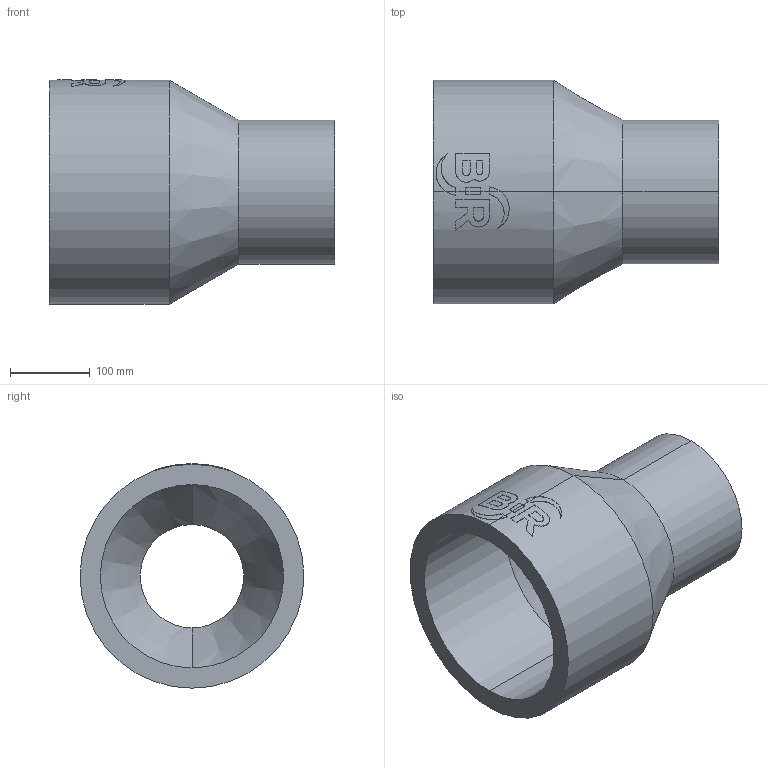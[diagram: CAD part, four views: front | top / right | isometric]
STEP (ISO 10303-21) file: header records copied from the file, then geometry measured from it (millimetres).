
FILE_DESCRIPTION (( 'STEP AP214' ), '1' );
FILE_NAME ('2323221815.STEP', '2018-07-20T09:13:49', ( '' ), ( '' ), 'SwSTEP 2.0', 'SolidWorks 2017', '' );
FILE_SCHEMA (( 'AUTOMOTIVE_DESIGN' ));
Length unit declared in the file: millimetre
Products named in the file (1): 2323221815
Bounding box: 357 x 280 x 280.46 mm (x, y, z)
Volume: 6140477.2 mm3; surface area: 516421.4 mm2
Topology: 1 solids, 1 shells, 63 faces, 160 edges, 104 vertices
Faces by surface type: cylinder 31, plane 28, cone 4
Entity records: 3383 total; most frequent: CARTESIAN_POINT 1174, ORIENTED_EDGE 320, DIRECTION 296, EDGE_CURVE 160, AXIS2_PLACEMENT_3D 112, VERTEX_POINT 104, VECTOR 72, LINE 72
